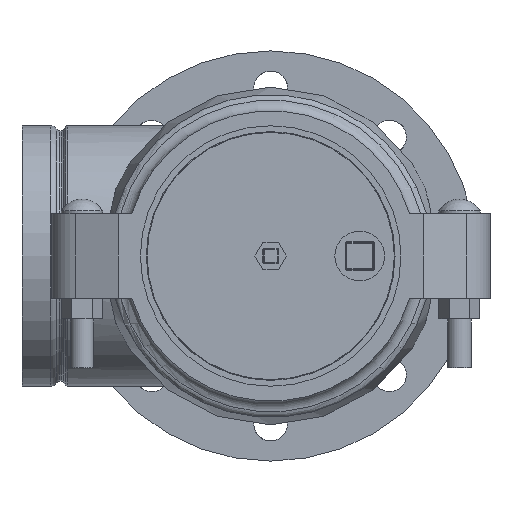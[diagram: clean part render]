
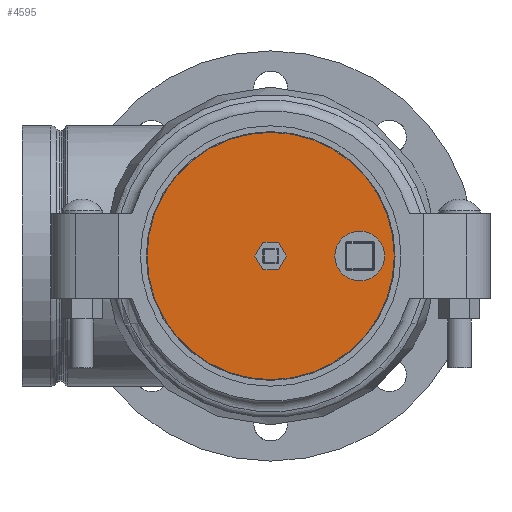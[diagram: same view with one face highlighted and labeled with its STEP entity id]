
A CAD part, left-side view. The second image highlights one B-rep face of the part: STEP entity #4595.
In plain terms, the highlighted planar face has unit normal (-1, 0, 0).
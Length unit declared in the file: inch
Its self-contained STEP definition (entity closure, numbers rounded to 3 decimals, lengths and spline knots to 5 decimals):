
#105=FACE_BOUND('',#1561,.T.);
#106=FACE_BOUND('',#1562,.T.);
#158=PLANE('',#5152);
#478=CIRCLE('',#5151,0.525);
#479=CIRCLE('',#5153,2.60998);
#480=CIRCLE('',#5154,2.60998);
#753=LINE('',#7734,#980);
#756=LINE('',#7739,#983);
#758=LINE('',#7743,#985);
#760=LINE('',#7747,#987);
#762=LINE('',#7751,#989);
#764=LINE('',#7754,#991);
#980=VECTOR('',#6196,0.3937);
#983=VECTOR('',#6201,0.3937);
#985=VECTOR('',#6205,0.3937);
#987=VECTOR('',#6209,0.3937);
#989=VECTOR('',#6213,0.3937);
#991=VECTOR('',#6217,0.3937);
#1322=FACE_OUTER_BOUND('',#1560,.T.);
#1560=EDGE_LOOP('',(#3485,#3486));
#1561=EDGE_LOOP('',(#3487,#3488,#3489,#3490,#3491,#3492));
#1562=EDGE_LOOP('',(#3493));
#1922=VERTEX_POINT('',#7732);
#1923=VERTEX_POINT('',#7733);
#1924=VERTEX_POINT('',#7738);
#1925=VERTEX_POINT('',#7742);
#1926=VERTEX_POINT('',#7746);
#1927=VERTEX_POINT('',#7750);
#1928=VERTEX_POINT('',#7756);
#1929=VERTEX_POINT('',#7760);
#1930=VERTEX_POINT('',#7761);
#2485=EDGE_CURVE('',#1922,#1923,#753,.T.);
#2488=EDGE_CURVE('',#1923,#1924,#756,.T.);
#2490=EDGE_CURVE('',#1924,#1925,#758,.T.);
#2492=EDGE_CURVE('',#1925,#1926,#760,.T.);
#2494=EDGE_CURVE('',#1926,#1927,#762,.T.);
#2496=EDGE_CURVE('',#1927,#1922,#764,.T.);
#2498=EDGE_CURVE('',#1928,#1928,#478,.T.);
#2499=EDGE_CURVE('',#1929,#1930,#479,.T.);
#2500=EDGE_CURVE('',#1930,#1929,#480,.T.);
#3485=ORIENTED_EDGE('',*,*,#2499,.F.);
#3486=ORIENTED_EDGE('',*,*,#2500,.F.);
#3487=ORIENTED_EDGE('',*,*,#2485,.T.);
#3488=ORIENTED_EDGE('',*,*,#2488,.T.);
#3489=ORIENTED_EDGE('',*,*,#2490,.T.);
#3490=ORIENTED_EDGE('',*,*,#2492,.T.);
#3491=ORIENTED_EDGE('',*,*,#2494,.T.);
#3492=ORIENTED_EDGE('',*,*,#2496,.T.);
#3493=ORIENTED_EDGE('',*,*,#2498,.T.);
#4595=ADVANCED_FACE('',(#1322,#105,#106),#158,.T.);
#5151=AXIS2_PLACEMENT_3D('',#7758,#6221,#6222);
#5152=AXIS2_PLACEMENT_3D('',#7759,#6223,#6224);
#5153=AXIS2_PLACEMENT_3D('',#7762,#6225,#6226);
#5154=AXIS2_PLACEMENT_3D('',#7763,#6227,#6228);
#6196=DIRECTION('',(0.,-1.,0.));
#6201=DIRECTION('',(0.,-0.5,-0.866));
#6205=DIRECTION('',(0.,0.5,-0.866));
#6209=DIRECTION('',(0.,1.,0.));
#6213=DIRECTION('',(0.,0.5,0.866));
#6217=DIRECTION('',(0.,-0.5,0.866));
#6221=DIRECTION('center_axis',(1.,0.,0.));
#6222=DIRECTION('ref_axis',(0.,0.,-1.));
#6223=DIRECTION('center_axis',(-1.,0.,0.));
#6224=DIRECTION('ref_axis',(0.,0.,1.));
#6225=DIRECTION('center_axis',(1.,0.,0.));
#6226=DIRECTION('ref_axis',(0.,0.,-1.));
#6227=DIRECTION('center_axis',(1.,0.,0.));
#6228=DIRECTION('ref_axis',(0.,0.,-1.));
#7732=CARTESIAN_POINT('',(-0.345,0.16599,0.2875));
#7733=CARTESIAN_POINT('',(-0.345,-0.16599,0.2875));
#7734=CARTESIAN_POINT('',(-0.345,1.22199,0.2875));
#7738=CARTESIAN_POINT('',(-0.345,-0.33198,0.));
#7739=CARTESIAN_POINT('',(-0.345,0.03577,0.63695));
#7742=CARTESIAN_POINT('',(-0.345,-0.16599,-0.2875));
#7743=CARTESIAN_POINT('',(-0.345,0.11876,-0.7807));
#7746=CARTESIAN_POINT('',(-0.345,0.16599,-0.2875));
#7747=CARTESIAN_POINT('',(-0.345,1.38798,-0.2875));
#7750=CARTESIAN_POINT('',(-0.345,0.33198,0.));
#7751=CARTESIAN_POINT('',(-0.345,0.61673,0.4932));
#7754=CARTESIAN_POINT('',(-0.345,0.53373,-0.34945));
#7756=CARTESIAN_POINT('',(-0.345,-1.88,0.525));
#7758=CARTESIAN_POINT('Origin',(-0.345,-1.88,0.));
#7759=CARTESIAN_POINT('Origin',(-0.345,2.60998,0.));
#7760=CARTESIAN_POINT('',(-0.345,2.60998,0.));
#7761=CARTESIAN_POINT('',(-0.345,-2.60998,0.));
#7762=CARTESIAN_POINT('Origin',(-0.345,0.,0.));
#7763=CARTESIAN_POINT('Origin',(-0.345,0.,0.));
